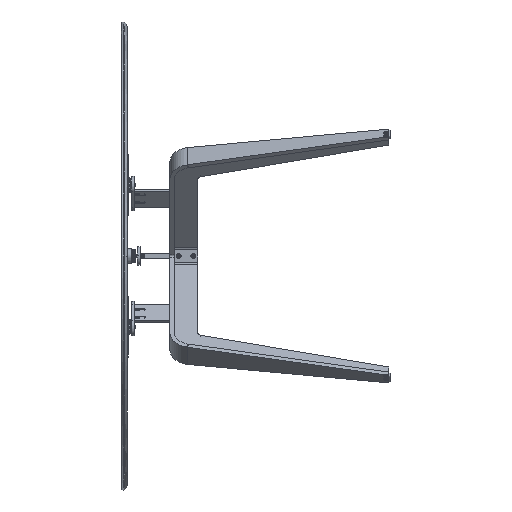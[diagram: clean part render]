
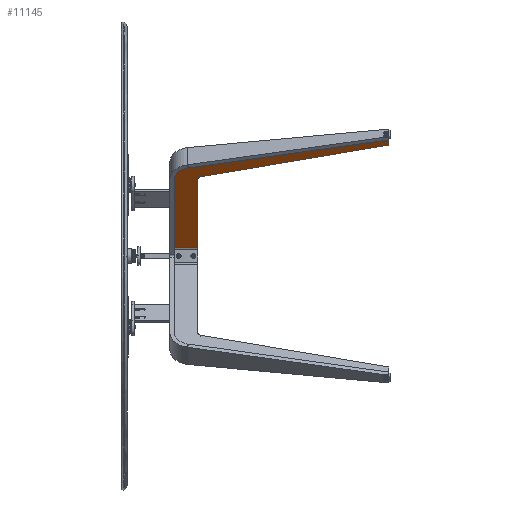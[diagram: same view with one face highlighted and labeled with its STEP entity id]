
A CAD part, left-side view. The second image highlights one B-rep face of the part: STEP entity #11145.
In plain terms, the highlighted planar face has unit normal (-0.731, 0, -0.682) as drawn and (0, 0, 1) by its records, which use the part's own axes.
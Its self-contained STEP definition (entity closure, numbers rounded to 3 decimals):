
#194 = EDGE_CURVE ( 'NONE', #28154, #12207, #17093, .T. ) ;
#485 = LINE ( 'NONE', #13525, #7404 ) ;
#1415 = LINE ( 'NONE', #3709, #28409 ) ;
#2019 = LINE ( 'NONE', #4304, #18703 ) ;
#2077 = DIRECTION ( 'NONE',  ( 1., 0., 0. ) ) ;
#3263 = DIRECTION ( 'NONE',  ( 1., 0., 0. ) ) ;
#3680 = AXIS2_PLACEMENT_3D ( 'NONE', #22552, #33315, #33650 ) ;
#3709 = CARTESIAN_POINT ( 'NONE',  ( -100.401, 557.196, 5. ) ) ;
#3714 = ORIENTED_EDGE ( 'NONE', *, *, #4812, .T. ) ;
#4074 = ORIENTED_EDGE ( 'NONE', *, *, #18483, .T. ) ;
#4304 = CARTESIAN_POINT ( 'NONE',  ( -41.5, 0., 5. ) ) ;
#4732 = VERTEX_POINT ( 'NONE', #34753 ) ;
#4812 = EDGE_CURVE ( 'NONE', #31680, #20909, #21360, .T. ) ;
#6238 = VECTOR ( 'NONE', #2077, 1000. ) ;
#6497 = CARTESIAN_POINT ( 'NONE',  ( -100.401, 557.196, 5. ) ) ;
#6696 = EDGE_CURVE ( 'NONE', #4732, #10972, #2019, .T. ) ;
#6924 = DIRECTION ( 'NONE',  ( 1., 0., 0. ) ) ;
#7254 = PLANE ( 'NONE',  #15673 ) ;
#7404 = VECTOR ( 'NONE', #20450, 1000. ) ;
#7960 = CARTESIAN_POINT ( 'NONE',  ( -430.011, 596., 5. ) ) ;
#8434 = EDGE_CURVE ( 'NONE', #12207, #4732, #28930, .T. ) ;
#9548 = CARTESIAN_POINT ( 'NONE',  ( -145.834, 550., 5. ) ) ;
#10585 = CARTESIAN_POINT ( 'NONE',  ( -145.834, 596., 5. ) ) ;
#10944 = ORIENTED_EDGE ( 'NONE', *, *, #24652, .T. ) ;
#10972 = VERTEX_POINT ( 'NONE', #32809 ) ;
#11145 = ADVANCED_FACE ( 'NONE', ( #25551 ), #7254, .T. ) ;
#12123 = DIRECTION ( 'NONE',  ( -0.156, 0.988, 0. ) ) ;
#12207 = VERTEX_POINT ( 'NONE', #17649 ) ;
#12385 = DIRECTION ( 'NONE',  ( 0.225, -0.974, 0. ) ) ;
#12549 = ORIENTED_EDGE ( 'NONE', *, *, #194, .T. ) ;
#13172 = CARTESIAN_POINT ( 'NONE',  ( -500., 530., 5. ) ) ;
#13357 = EDGE_CURVE ( 'NONE', #30198, #28154, #31808, .T. ) ;
#13525 = CARTESIAN_POINT ( 'NONE',  ( -430.011, 550., 5. ) ) ;
#13985 = DIRECTION ( 'NONE',  ( 0., 0., 1. ) ) ;
#15089 = LINE ( 'NONE', #10585, #34403 ) ;
#15563 = CARTESIAN_POINT ( 'NONE',  ( -162.071, 522.25, 5. ) ) ;
#15673 = AXIS2_PLACEMENT_3D ( 'NONE', #9548, #17482, #6924 ) ;
#17093 = CIRCLE ( 'NONE', #3680, 10. ) ;
#17482 = DIRECTION ( 'NONE',  ( 0., 0., 1. ) ) ;
#17649 = CARTESIAN_POINT ( 'NONE',  ( -162.071, 522.25, 5. ) ) ;
#17984 = EDGE_LOOP ( 'NONE', ( #23530, #4074, #29341, #12549, #34358, #29068, #10944, #3714 ) ) ;
#18483 = EDGE_CURVE ( 'NONE', #33562, #30198, #485, .T. ) ;
#18601 = AXIS2_PLACEMENT_3D ( 'NONE', #27506, #13985, #3263 ) ;
#18703 = VECTOR ( 'NONE', #23109, 1000. ) ;
#20450 = DIRECTION ( 'NONE',  ( 0., -1., 0. ) ) ;
#20909 = VERTEX_POINT ( 'NONE', #26522 ) ;
#21360 = CIRCLE ( 'NONE', #18601, 46. ) ;
#22552 = CARTESIAN_POINT ( 'NONE',  ( -171.815, 520., 5. ) ) ;
#23109 = DIRECTION ( 'NONE',  ( 1., 0., 0. ) ) ;
#23530 = ORIENTED_EDGE ( 'NONE', *, *, #31950, .T. ) ;
#24256 = CARTESIAN_POINT ( 'NONE',  ( -171.815, 530., 5. ) ) ;
#24388 = VECTOR ( 'NONE', #12385, 1000. ) ;
#24652 = EDGE_CURVE ( 'NONE', #10972, #31680, #1415, .T. ) ;
#25551 = FACE_OUTER_BOUND ( 'NONE', #17984, .T. ) ;
#26522 = CARTESIAN_POINT ( 'NONE',  ( -145.834, 596., 5. ) ) ;
#27506 = CARTESIAN_POINT ( 'NONE',  ( -145.834, 550., 5. ) ) ;
#28154 = VERTEX_POINT ( 'NONE', #24256 ) ;
#28409 = VECTOR ( 'NONE', #12123, 1000. ) ;
#28930 = LINE ( 'NONE', #15563, #24388 ) ;
#29068 = ORIENTED_EDGE ( 'NONE', *, *, #6696, .T. ) ;
#29341 = ORIENTED_EDGE ( 'NONE', *, *, #13357, .T. ) ;
#29590 = DIRECTION ( 'NONE',  ( -1., 0., 0. ) ) ;
#30198 = VERTEX_POINT ( 'NONE', #30706 ) ;
#30706 = CARTESIAN_POINT ( 'NONE',  ( -430.011, 530., 5. ) ) ;
#31680 = VERTEX_POINT ( 'NONE', #6497 ) ;
#31808 = LINE ( 'NONE', #13172, #6238 ) ;
#31950 = EDGE_CURVE ( 'NONE', #20909, #33562, #15089, .T. ) ;
#32809 = CARTESIAN_POINT ( 'NONE',  ( -12.15, 0., 5. ) ) ;
#33315 = DIRECTION ( 'NONE',  ( 0., 0., -1. ) ) ;
#33562 = VERTEX_POINT ( 'NONE', #7960 ) ;
#33650 = DIRECTION ( 'NONE',  ( -1., 0., 0. ) ) ;
#34358 = ORIENTED_EDGE ( 'NONE', *, *, #8434, .T. ) ;
#34403 = VECTOR ( 'NONE', #29590, 1000. ) ;
#34753 = CARTESIAN_POINT ( 'NONE',  ( -41.5, 0., 5. ) ) ;
